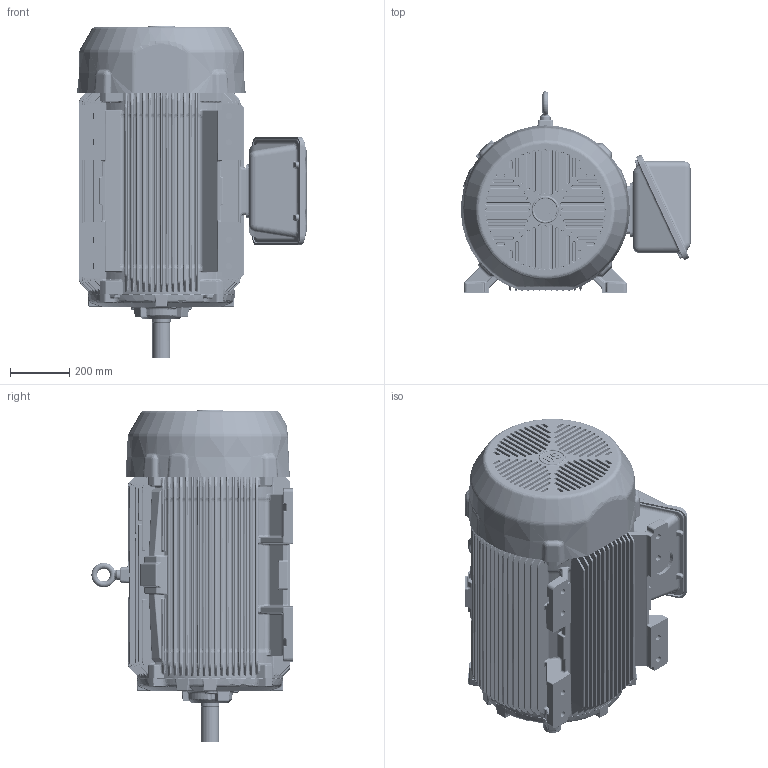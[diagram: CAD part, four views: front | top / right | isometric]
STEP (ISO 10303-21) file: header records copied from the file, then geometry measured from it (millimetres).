
FILE_DESCRIPTION((''),'2;1');
FILE_NAME('447_3D_ASM_ASM','2018-07-25T11:15:44',('EMD2341'),('Nidec Motor Corporation'),'CREO PARAMETRIC BY PTC INC, 2018020','CREO PARAMETRIC BY PTC INC, 2018020','');
FILE_SCHEMA(('CONFIG_CONTROL_DESIGN'));
Length unit declared in the file: inch
Products named in the file (10): 447_FOOTED_FRAME; 440_CAST_FCVR; 0011046; 440_TS; 440_CAST_GSK_OBB; 440_OBB_NEMA; 440_CAST_GSK_OBC; 440_CAST_OBC; 440_ODE_BRKT; 447_3D_ASM_ASM
Assembly tree (9 placements, depth 2):
  447_3D_ASM_ASM
    447_FOOTED_FRAME
    440_CAST_FCVR
    0011046
    440_TS
    440_CAST_GSK_OBB
    440_OBB_NEMA
    440_CAST_GSK_OBC
    440_CAST_OBC
    440_ODE_BRKT
Bounding box: 778.3 x 681.1 x 1123.95 mm (x, y, z)
Volume: 231256913.7 mm3; surface area: 6713603 mm2
Topology: 9 solids, 10 shells, 6550 faces, 15012 edges, 8554 vertices
Faces by surface type: bspline 2837, cylinder 1330, plane 1162, torus 500, extrusion 460, cone 167, sphere 94
Entity records: 298522 total; most frequent: CARTESIAN_POINT 171188, ORIENTED_EDGE 30020, DIRECTION 20837, EDGE_CURVE 15012, VERTEX_POINT 8554, AXIS2_PLACEMENT_3D 7833, EDGE_LOOP 6652, FACE_OUTER_BOUND 6550
